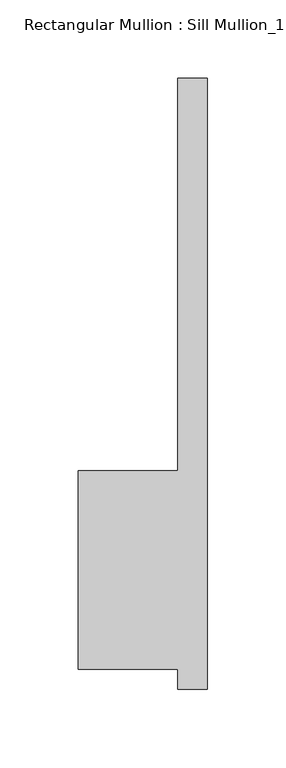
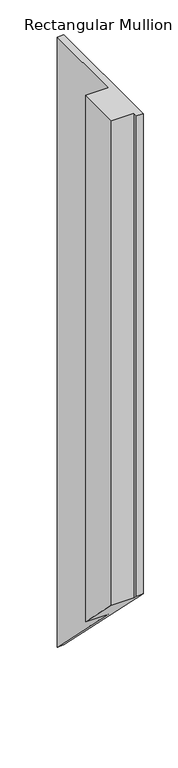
"""IFC4 building model written with IfcOpenShell, lengths in millimetres: member geometry."""

import ifcopenshell
import ifcopenshell.guid

model = None  # the IFC model being written
_history = None  # IfcOwnerHistory: only IFC2X3 demands one
_inside = {}  # id of a spatial element -> (the spatial element, [elements in it])
_under = {}  # id of a project, library or spatial element -> (it, [spatial elements below it])
_declared = {}  # id of a project -> (the project, [libraries it declares])
_typed = {}  # id of a type object -> (the type object, [elements of that type])
_made_of = {}  # id of a material, layer set ... -> (it, [elements and type objects made of it])


def new_model(schema):
    """Start an empty IFC model of exactly this schema.

    Asked for "IFC4X3", IfcOpenShell would pick the latest addendum, in which some entities
    have other attributes; the version numbers below select the first issue.
    IFC2X3 requires an IfcOwnerHistory on every rooted entity: one is made here for all.
    """
    global model, _history
    if schema == "IFC4X3":
        model = ifcopenshell.file(schema_version=(4, 3, 0, 0))
    else:
        model = ifcopenshell.file(schema=schema)
    _inside.clear()
    _under.clear()
    _declared.clear()
    _typed.clear()
    _made_of.clear()
    _history = None
    if model.schema == "IFC2X3":
        org = make("IfcOrganization", Name="unknown")
        user = make(
            "IfcPersonAndOrganization",
            ThePerson=make("IfcPerson", FamilyName="unknown"),
            TheOrganization=org,
        )
        app = make(
            "IfcApplication",
            ApplicationDeveloper=org,
            Version="unknown",
            ApplicationFullName="unknown",
            ApplicationIdentifier="unknown",
        )
        _history = make(
            "IfcOwnerHistory",
            OwningUser=user,
            OwningApplication=app,
            ChangeAction="ADDED",
            CreationDate=0,
        )
    return model


def make(cls, **values):
    """One entity of the class cls with the attributes given. An attribute that is None is left unset."""
    return model.create_entity(
        cls, **{name: value for name, value in values.items() if value is not None}
    )


def rooted(cls, **values):
    """An entity with a GlobalId (a new one), such as an element, a storey or a relation."""
    return make(cls, GlobalId=ifcopenshell.guid.new(), OwnerHistory=_history, **values)


def si_unit(unit_type, name, prefix=None):
    """IfcSIUnit, for example si_unit("LENGTHUNIT", "METRE", prefix="MILLI")."""
    return make("IfcSIUnit", UnitType=unit_type, Prefix=prefix, Name=name)


def assignment(units):
    """IfcUnitAssignment: the units of a project."""
    return None if units is None else make("IfcUnitAssignment", Units=units)


def point(xyz):
    """IfcCartesianPoint."""
    return None if xyz is None else make("IfcCartesianPoint", Coordinates=xyz)


def direction(xyz):
    """IfcDirection."""
    return None if xyz is None else make("IfcDirection", DirectionRatios=xyz)


def frame(location, z_axis=None, x_axis=None):
    """IfcAxis2Placement3D, a coordinate frame: its origin and axes. An axis left out is left unset."""
    return make(
        "IfcAxis2Placement3D",
        Location=point(location),
        Axis=direction(z_axis),
        RefDirection=direction(x_axis),
    )


def origin():
    """The frame at (0, 0, 0) with its axes left unset."""
    return frame((0.0, 0.0, 0.0))


def place(relative_to, where):
    """IfcLocalPlacement: puts the frame where relative to a parent placement (None: the world)."""
    return make(
        "IfcLocalPlacement", PlacementRelTo=relative_to, RelativePlacement=where
    )


def context(
    kind, dimensions, precision=None, world=None, true_north=None, identifier=None
):
    """IfcGeometricRepresentationContext, for example the 3D "Model" context."""
    return make(
        "IfcGeometricRepresentationContext",
        ContextIdentifier=identifier,
        ContextType=kind,
        CoordinateSpaceDimension=dimensions,
        Precision=precision,
        WorldCoordinateSystem=world,
        TrueNorth=true_north,
    )


def project(units=None, contexts=None):
    """IfcProject with its units and contexts."""
    return rooted(
        "IfcProject",
        Name="project",
        RepresentationContexts=contexts,
        UnitsInContext=assignment(units),
    )


def spatial(cls, under=None, at=None, **own):
    """A site, building, storey or space (cls), placed at a placement, below another one or the project."""
    s = rooted(cls, ObjectPlacement=at, **own)
    if under is not None:
        _under.setdefault(under.id(), (under, []))[1].append(s)
    return s


def faces_of(points, faces, orient=None, outer=None):
    """IfcFace entities. A face is a list of loops; a loop is a list of indices into points, from 0.

    orient and outer hold one flag for each loop. By default every Orientation is true, the
    first loop of a face is its IfcFaceOuterBound and the others are IfcFaceBound.
    """
    made = []
    for i, loops in enumerate(faces):
        bounds = []
        for j, loop in enumerate(loops):
            is_outer = j == 0 if outer is None else outer[i][j]
            bounds.append(
                make(
                    "IfcFaceOuterBound" if is_outer else "IfcFaceBound",
                    Bound=make("IfcPolyLoop", Polygon=[points[k] for k in loop]),
                    Orientation=True if orient is None else orient[i][j],
                )
            )
        made.append(make("IfcFace", Bounds=bounds))
    return made


def faceted_brep(points, faces, orient=None, outer=None, voids=None):
    """IfcFacetedBrep: a solid bounded by flat faces; with voids (closed shells), ...WithVoids."""
    shared = [point(p) for p in points]
    hull = make("IfcClosedShell", CfsFaces=faces_of(shared, faces, orient, outer))
    if voids is None:
        return make("IfcFacetedBrep", Outer=hull)
    return make(
        "IfcFacetedBrepWithVoids",
        Outer=hull,
        Voids=[
            make(cls, CfsFaces=faces_of(shared, fs, o, b)) for cls, fs, o, b in voids
        ],
    )


def shape(context_of_items, identifier, shape_type, items):
    """IfcShapeRepresentation: the items that make up one representation, for example the "Body"."""
    return make(
        "IfcShapeRepresentation",
        ContextOfItems=context_of_items,
        RepresentationIdentifier=identifier,
        RepresentationType=shape_type,
        Items=items,
    )


def source(mapping_origin, context_of_items, identifier, shape_type, items):
    """IfcRepresentationMap: a shape defined once, which mapped items show again and again."""
    return make(
        "IfcRepresentationMap",
        MappingOrigin=mapping_origin,
        MappedRepresentation=shape(context_of_items, identifier, shape_type, items),
    )


def transform(
    local_origin,
    x_axis=None,
    y_axis=None,
    z_axis=None,
    scale=None,
    scale2=None,
    scale3=None,
    uniform=True,
):
    """IfcCartesianTransformationOperator3D, or its non-uniform kind. x_axis, y_axis, z_axis: its Axis1, 2, 3."""
    if uniform:
        return make(
            "IfcCartesianTransformationOperator3D",
            Axis1=direction(x_axis),
            Axis2=direction(y_axis),
            LocalOrigin=point(local_origin),
            Scale=scale,
            Axis3=direction(z_axis),
        )
    return make(
        "IfcCartesianTransformationOperator3DnonUniform",
        Axis1=direction(x_axis),
        Axis2=direction(y_axis),
        LocalOrigin=point(local_origin),
        Scale=scale,
        Axis3=direction(z_axis),
        Scale2=scale2,
        Scale3=scale3,
    )


def mapped(mapping_source, mapping_target):
    """IfcMappedItem: shows the shape of a source again, moved by a transform."""
    return make(
        "IfcMappedItem", MappingSource=mapping_source, MappingTarget=mapping_target
    )


def made_of(thing, what):
    """Note that an element or type object is made of a material, layer set ...; save() writes the relation."""
    if what is not None:
        _made_of.setdefault(what.id(), (what, []))[1].append(thing)
    return thing


def element(
    cls,
    number,
    at=None,
    inside=None,
    cuts=None,
    type_object=None,
    material=None,
    context=None,
    identifier="Body",
    shape_type=None,
    held_by="IfcProductDefinitionShape",
    body=None,
    shapes=None,
    **own,
):
    """One element of the class cls, such as IfcWall. Its Tag is "e" and its number.

    at: its placement. inside: the storey or other place that contains it. cuts: it is an
    opening in that element (IfcRelVoidsElement). A single representation is given by context,
    identifier, shape_type and body (its items); several are given by shapes. held_by: the class
    of the entity that holds the representations. save() writes the other relations.
    """
    e = rooted(cls, Tag="e%d" % number, ObjectPlacement=at, **own)
    if body is not None:
        shapes = [shape(context, identifier, shape_type, body)]
    if shapes is not None:
        e.Representation = make(held_by, Representations=shapes)
    if inside is not None:
        _inside.setdefault(inside.id(), (inside, []))[1].append(e)
    if cuts is not None:
        rooted(
            "IfcRelVoidsElement", RelatingBuildingElement=cuts, RelatedOpeningElement=e
        )
    if type_object is not None:
        _typed.setdefault(type_object.id(), (type_object, []))[1].append(e)
    return made_of(e, material)


def aggregate(whole, parts):
    """IfcRelAggregates: a whole, such as a stair, and the parts it consists of."""
    return rooted("IfcRelAggregates", RelatingObject=whole, RelatedObjects=parts)


def save(model, path):
    """Write the relations noted so far, then the file.

    IfcRelAggregates (storeys below a building ...), IfcRelContainedInSpatialStructure (elements
    in a storey), IfcRelDefinesByType, IfcRelAssociatesMaterial and IfcRelDeclares: one each for
    every whole, place, type object, material and project.
    """
    for whole, parts in _under.values():
        aggregate(whole, parts)
    for where, things in _inside.values():
        rooted(
            "IfcRelContainedInSpatialStructure",
            RelatedElements=things,
            RelatingStructure=where,
        )
    for kind, things in _typed.values():
        rooted("IfcRelDefinesByType", RelatedObjects=things, RelatingType=kind)
    for what, things in _made_of.values():
        rooted("IfcRelAssociatesMaterial", RelatedObjects=things, RelatingMaterial=what)
    for by, libraries in _declared.values():
        rooted("IfcRelDeclares", RelatingContext=by, RelatedDefinitions=libraries)
    model.write(path)


def member_c99d0356(model_context):
    return source(origin(), model_context, "Body", "Brep", [
        faceted_brep([(-82.55, 50.8, 0.0), (-82.55, -76.2, 0.0), (-19.05, -76.2, 0.0), (-19.05, -88.9, 0.0), (0.0, -88.9, 0.0), (0.0, 301.625, 0.0), (-19.05, 301.625, 0.0), (-19.05, 50.8, 0.0), (-82.55, 50.8, -1586.4416667), (-82.55, -76.2, -1459.4416667), (-19.05, -76.2, -1459.4416667), (-19.05, -88.9, -1446.7416667), (0.0, -88.9, -1446.7416667), (0.0, 301.625, -1837.2666667), (-19.05, 301.625, -1837.2666667), (-19.05, 50.8, -1586.4416667)], [[[0, 1, 2, 3, 4, 5, 6, 7]], [[1, 0, 8, 9]], [[2, 1, 9, 10]], [[3, 2, 10, 11]], [[4, 3, 11, 12]], [[5, 4, 12, 13]], [[6, 5, 13, 14]], [[7, 6, 14, 15]], [[0, 7, 15, 8]], [[8, 15, 14, 13, 12, 11, 10, 9]]]),
    ])


if __name__ == "__main__":
    model = new_model("IFC4")
    model_context = context("Model", 3, world=origin())
    ifc_project = project(units=[si_unit("LENGTHUNIT", "METRE", prefix="MILLI")], contexts=[model_context])
    site = spatial("IfcSite", under=ifc_project)
    building = spatial("IfcBuilding", under=site)
    placement = place(None, origin())
    member_shape = member_c99d0356(model_context)
    element("IfcMember", 1, ObjectType="Rectangular Mullion : Sill Mullion_15\" thick wall", at=placement, inside=building, context=model_context, shape_type="MappedRepresentation", body=[
        mapped(member_shape, transform((0.0, 0.0, 0.0), x_axis=(1.0, 0.0, 0.0), y_axis=(0.0, 1.0, 0.0), z_axis=(0.0, 0.0, 1.0))),
    ])
    save(model, "model.ifc")
